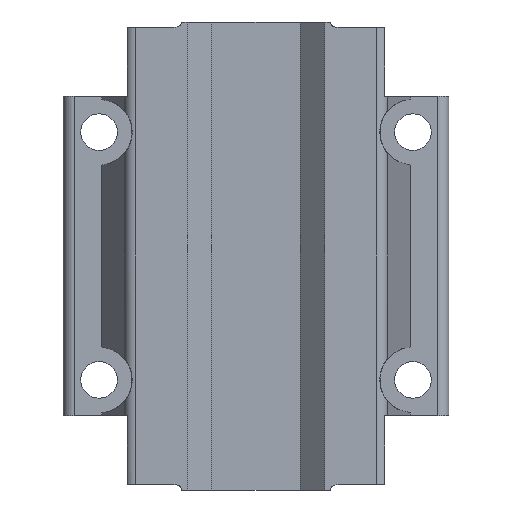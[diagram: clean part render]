
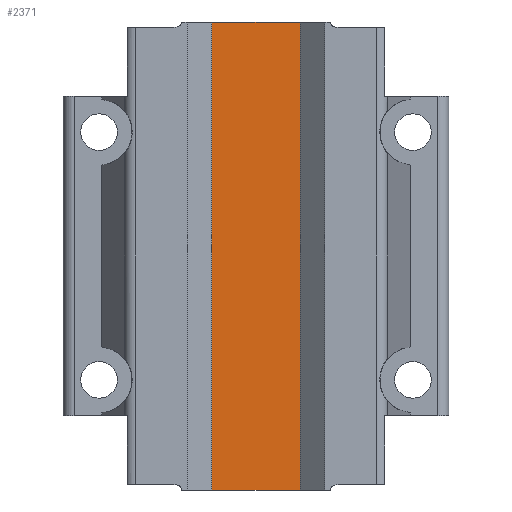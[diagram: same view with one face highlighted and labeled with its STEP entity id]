
A CAD part, front view. The second image highlights one B-rep face of the part: STEP entity #2371.
In plain terms, the highlighted planar face has unit normal (0, -1, 0).
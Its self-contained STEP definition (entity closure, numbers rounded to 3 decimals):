
#125=PLANE('',#2587);
#349=FACE_OUTER_BOUND('',#475,.T.);
#475=EDGE_LOOP('',(#2232,#2233,#2234,#2235));
#596=LINE('',#3535,#846);
#618=LINE('',#3611,#868);
#725=LINE('',#3985,#975);
#726=LINE('',#3987,#976);
#846=VECTOR('',#2846,10.);
#868=VECTOR('',#2924,10.);
#975=VECTOR('',#3221,10.);
#976=VECTOR('',#3224,10.);
#1140=VERTEX_POINT('',#3532);
#1141=VERTEX_POINT('',#3534);
#1166=VERTEX_POINT('',#3608);
#1167=VERTEX_POINT('',#3610);
#1396=EDGE_CURVE('',#1141,#1140,#596,.T.);
#1434=EDGE_CURVE('',#1166,#1167,#618,.T.);
#1579=EDGE_CURVE('',#1166,#1141,#725,.T.);
#1580=EDGE_CURVE('',#1167,#1140,#726,.T.);
#2232=ORIENTED_EDGE('',*,*,#1579,.T.);
#2233=ORIENTED_EDGE('',*,*,#1396,.T.);
#2234=ORIENTED_EDGE('',*,*,#1580,.F.);
#2235=ORIENTED_EDGE('',*,*,#1434,.F.);
#2371=ADVANCED_FACE('',(#349),#125,.T.);
#2587=AXIS2_PLACEMENT_3D('',#3986,#3222,#3223);
#2846=DIRECTION('',(-1.,0.,0.));
#2924=DIRECTION('',(-1.,0.,0.));
#3221=DIRECTION('',(0.,0.,1.));
#3222=DIRECTION('center_axis',(0.,-1.,0.));
#3223=DIRECTION('ref_axis',(1.,0.,0.));
#3224=DIRECTION('',(0.,0.,1.));
#3532=CARTESIAN_POINT('',(-9.5,22.,42.5));
#3534=CARTESIAN_POINT('',(9.5,22.,42.5));
#3535=CARTESIAN_POINT('',(9.5,22.,42.5));
#3608=CARTESIAN_POINT('',(9.5,22.,-42.5));
#3610=CARTESIAN_POINT('',(-9.5,22.,-42.5));
#3611=CARTESIAN_POINT('',(9.5,22.,-42.5));
#3985=CARTESIAN_POINT('',(9.5,22.,0.));
#3986=CARTESIAN_POINT('Origin',(-9.5,22.,0.));
#3987=CARTESIAN_POINT('',(-9.5,22.,0.));
